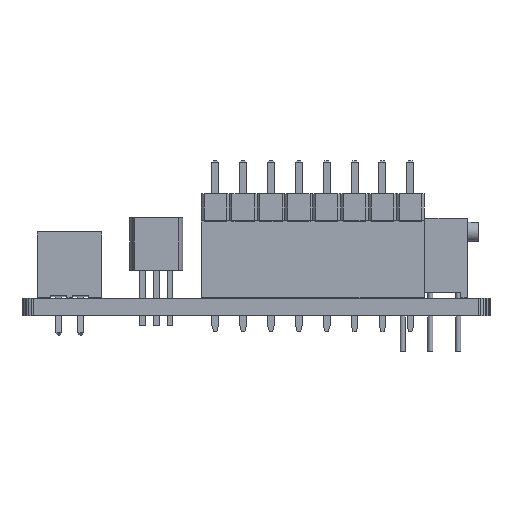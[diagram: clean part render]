
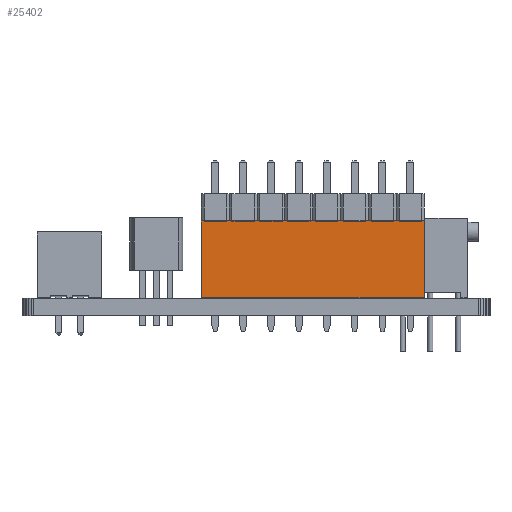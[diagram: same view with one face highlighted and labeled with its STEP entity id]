
A CAD part, left-side view. The second image highlights one B-rep face of the part: STEP entity #25402.
In plain terms, the highlighted planar face has unit normal (-1, 0, 0).
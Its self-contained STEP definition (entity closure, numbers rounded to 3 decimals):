
#22236 = PLANE('',#22237);
#22237 = AXIS2_PLACEMENT_3D('',#22238,#22239,#22240);
#22238 = CARTESIAN_POINT('',(-1.27,-19.05,0.));
#22239 = DIRECTION('',(0.,1.,0.));
#22240 = DIRECTION('',(1.,0.,0.));
#22264 = PLANE('',#22265);
#22265 = AXIS2_PLACEMENT_3D('',#22266,#22267,#22268);
#22266 = CARTESIAN_POINT('',(1.27,-19.05,7.));
#22267 = DIRECTION('',(-0.,0.,-1.));
#22268 = DIRECTION('',(0.,-1.,-0.));
#22292 = PLANE('',#22293);
#22293 = AXIS2_PLACEMENT_3D('',#22294,#22295,#22296);
#22294 = CARTESIAN_POINT('',(1.27,1.27,0.));
#22295 = DIRECTION('',(0.,-1.,0.));
#22296 = DIRECTION('',(-1.,0.,0.));
#22334 = VERTEX_POINT('',#22335);
#22335 = CARTESIAN_POINT('',(-1.27,-19.05,0.));
#22351 = PLANE('',#22352);
#22352 = AXIS2_PLACEMENT_3D('',#22353,#22354,#22355);
#22353 = CARTESIAN_POINT('',(1.27,-19.05,0.));
#22354 = DIRECTION('',(-0.,0.,-1.));
#22355 = DIRECTION('',(0.,-1.,-0.));
#22363 = EDGE_CURVE('',#22334,#22364,#22366,.T.);
#22364 = VERTEX_POINT('',#22365);
#22365 = CARTESIAN_POINT('',(-1.27,-19.05,7.));
#22366 = SURFACE_CURVE('',#22367,(#22371,#22378),.PCURVE_S1.);
#22367 = LINE('',#22368,#22369);
#22368 = CARTESIAN_POINT('',(-1.27,-19.05,0.));
#22369 = VECTOR('',#22370,1.);
#22370 = DIRECTION('',(0.,0.,1.));
#22371 = PCURVE('',#22236,#22372);
#22372 = DEFINITIONAL_REPRESENTATION('',(#22373),#22377);
#22373 = LINE('',#22374,#22375);
#22374 = CARTESIAN_POINT('',(0.,0.));
#22375 = VECTOR('',#22376,1.);
#22376 = DIRECTION('',(0.,-1.));
#22377 = ( GEOMETRIC_REPRESENTATION_CONTEXT(2) 
PARAMETRIC_REPRESENTATION_CONTEXT() REPRESENTATION_CONTEXT('2D SPACE',''
  ) );
#22378 = PCURVE('',#22379,#22384);
#22379 = PLANE('',#22380);
#22380 = AXIS2_PLACEMENT_3D('',#22381,#22382,#22383);
#22381 = CARTESIAN_POINT('',(-1.27,1.27,0.));
#22382 = DIRECTION('',(1.,0.,0.));
#22383 = DIRECTION('',(0.,-1.,0.));
#22384 = DEFINITIONAL_REPRESENTATION('',(#22385),#22389);
#22385 = LINE('',#22386,#22387);
#22386 = CARTESIAN_POINT('',(20.32,0.));
#22387 = VECTOR('',#22388,1.);
#22388 = DIRECTION('',(0.,-1.));
#22389 = ( GEOMETRIC_REPRESENTATION_CONTEXT(2) 
PARAMETRIC_REPRESENTATION_CONTEXT() REPRESENTATION_CONTEXT('2D SPACE',''
  ) );
#22546 = VERTEX_POINT('',#22547);
#22547 = CARTESIAN_POINT('',(-1.27,1.27,7.));
#22568 = EDGE_CURVE('',#22569,#22546,#22571,.T.);
#22569 = VERTEX_POINT('',#22570);
#22570 = CARTESIAN_POINT('',(-1.27,1.27,0.));
#22571 = SURFACE_CURVE('',#22572,(#22576,#22583),.PCURVE_S1.);
#22572 = LINE('',#22573,#22574);
#22573 = CARTESIAN_POINT('',(-1.27,1.27,0.));
#22574 = VECTOR('',#22575,1.);
#22575 = DIRECTION('',(0.,0.,1.));
#22576 = PCURVE('',#22292,#22577);
#22577 = DEFINITIONAL_REPRESENTATION('',(#22578),#22582);
#22578 = LINE('',#22579,#22580);
#22579 = CARTESIAN_POINT('',(2.54,0.));
#22580 = VECTOR('',#22581,1.);
#22581 = DIRECTION('',(0.,-1.));
#22582 = ( GEOMETRIC_REPRESENTATION_CONTEXT(2) 
PARAMETRIC_REPRESENTATION_CONTEXT() REPRESENTATION_CONTEXT('2D SPACE',''
  ) );
#22583 = PCURVE('',#22379,#22584);
#22584 = DEFINITIONAL_REPRESENTATION('',(#22585),#22589);
#22585 = LINE('',#22586,#22587);
#22586 = CARTESIAN_POINT('',(0.,0.));
#22587 = VECTOR('',#22588,1.);
#22588 = DIRECTION('',(0.,-1.));
#22589 = ( GEOMETRIC_REPRESENTATION_CONTEXT(2) 
PARAMETRIC_REPRESENTATION_CONTEXT() REPRESENTATION_CONTEXT('2D SPACE',''
  ) );
#22713 = EDGE_CURVE('',#22546,#22364,#22714,.T.);
#22714 = SURFACE_CURVE('',#22715,(#22719,#22726),.PCURVE_S1.);
#22715 = LINE('',#22716,#22717);
#22716 = CARTESIAN_POINT('',(-1.27,1.27,7.));
#22717 = VECTOR('',#22718,1.);
#22718 = DIRECTION('',(0.,-1.,0.));
#22719 = PCURVE('',#22264,#22720);
#22720 = DEFINITIONAL_REPRESENTATION('',(#22721),#22725);
#22721 = LINE('',#22722,#22723);
#22722 = CARTESIAN_POINT('',(-20.32,2.54));
#22723 = VECTOR('',#22724,1.);
#22724 = DIRECTION('',(1.,0.));
#22725 = ( GEOMETRIC_REPRESENTATION_CONTEXT(2) 
PARAMETRIC_REPRESENTATION_CONTEXT() REPRESENTATION_CONTEXT('2D SPACE',''
  ) );
#22726 = PCURVE('',#22379,#22727);
#22727 = DEFINITIONAL_REPRESENTATION('',(#22728),#22732);
#22728 = LINE('',#22729,#22730);
#22729 = CARTESIAN_POINT('',(0.,-7.));
#22730 = VECTOR('',#22731,1.);
#22731 = DIRECTION('',(1.,0.));
#22732 = ( GEOMETRIC_REPRESENTATION_CONTEXT(2) 
PARAMETRIC_REPRESENTATION_CONTEXT() REPRESENTATION_CONTEXT('2D SPACE',''
  ) );
#23672 = EDGE_CURVE('',#22569,#22334,#23673,.T.);
#23673 = SURFACE_CURVE('',#23674,(#23678,#23685),.PCURVE_S1.);
#23674 = LINE('',#23675,#23676);
#23675 = CARTESIAN_POINT('',(-1.27,1.27,0.));
#23676 = VECTOR('',#23677,1.);
#23677 = DIRECTION('',(0.,-1.,0.));
#23678 = PCURVE('',#22351,#23679);
#23679 = DEFINITIONAL_REPRESENTATION('',(#23680),#23684);
#23680 = LINE('',#23681,#23682);
#23681 = CARTESIAN_POINT('',(-20.32,2.54));
#23682 = VECTOR('',#23683,1.);
#23683 = DIRECTION('',(1.,0.));
#23684 = ( GEOMETRIC_REPRESENTATION_CONTEXT(2) 
PARAMETRIC_REPRESENTATION_CONTEXT() REPRESENTATION_CONTEXT('2D SPACE',''
  ) );
#23685 = PCURVE('',#22379,#23686);
#23686 = DEFINITIONAL_REPRESENTATION('',(#23687),#23691);
#23687 = LINE('',#23688,#23689);
#23688 = CARTESIAN_POINT('',(0.,0.));
#23689 = VECTOR('',#23690,1.);
#23690 = DIRECTION('',(1.,0.));
#23691 = ( GEOMETRIC_REPRESENTATION_CONTEXT(2) 
PARAMETRIC_REPRESENTATION_CONTEXT() REPRESENTATION_CONTEXT('2D SPACE',''
  ) );
#25402 = ADVANCED_FACE('',(#25403),#22379,.F.);
#25403 = FACE_BOUND('',#25404,.F.);
#25404 = EDGE_LOOP('',(#25405,#25406,#25407,#25408));
#25405 = ORIENTED_EDGE('',*,*,#22568,.T.);
#25406 = ORIENTED_EDGE('',*,*,#22713,.T.);
#25407 = ORIENTED_EDGE('',*,*,#22363,.F.);
#25408 = ORIENTED_EDGE('',*,*,#23672,.F.);
